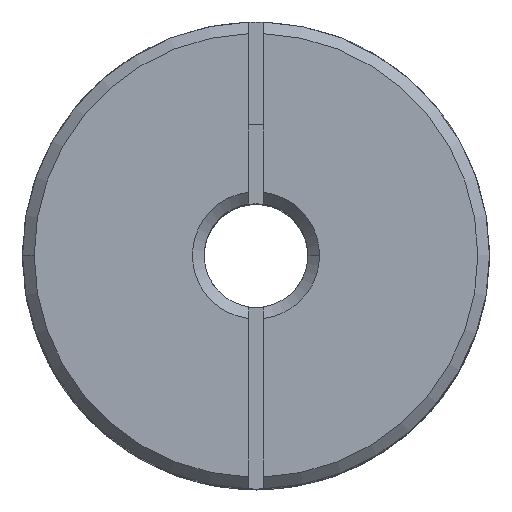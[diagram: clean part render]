
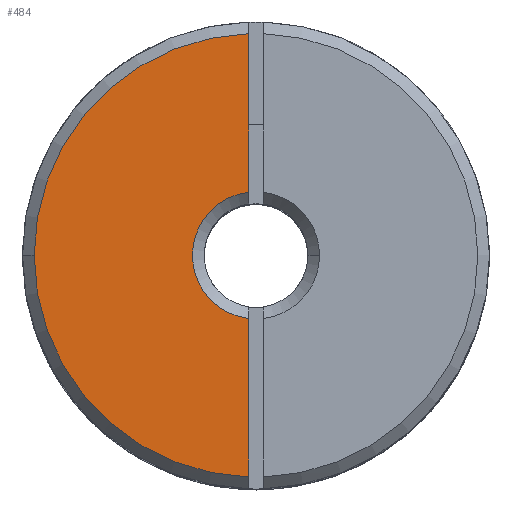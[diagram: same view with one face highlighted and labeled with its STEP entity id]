
A CAD part, top view. The second image highlights one B-rep face of the part: STEP entity #484.
In plain terms, the highlighted planar face has unit normal (0, 0, 1).
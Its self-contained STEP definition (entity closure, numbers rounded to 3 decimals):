
#469 = ORIENTED_EDGE ( 'NONE', *, *, #4118, .T. ) ;
#484 = ADVANCED_FACE ( 'NONE', ( #1631 ), #1629, .T. ) ;
#485 = EDGE_LOOP ( 'NONE', ( #486, #489, #492, #495, #469 ) ) ;
#486 = ORIENTED_EDGE ( 'NONE', *, *, #487, .F. ) ;
#487 = EDGE_CURVE ( 'NONE', #488, #4104, #1624, .T. ) ;
#488 = VERTEX_POINT ( 'NONE', #1685 ) ;
#489 = ORIENTED_EDGE ( 'NONE', *, *, #490, .T. ) ;
#490 = EDGE_CURVE ( 'NONE', #488, #491, #1684, .T. ) ;
#491 = VERTEX_POINT ( 'NONE', #1679 ) ;
#492 = ORIENTED_EDGE ( 'NONE', *, *, #493, .F. ) ;
#493 = EDGE_CURVE ( 'NONE', #494, #491, #1678, .T. ) ;
#494 = VERTEX_POINT ( 'NONE', #1674 ) ;
#495 = ORIENTED_EDGE ( 'NONE', *, *, #496, .T. ) ;
#496 = EDGE_CURVE ( 'NONE', #494, #4097, #1673, .T. ) ;
#1624 = LINE ( 'NONE', #1630, #1687 ) ;
#1625 = DIRECTION ( 'NONE',  ( 1., 0., 0. ) ) ;
#1626 = DIRECTION ( 'NONE',  ( 0., 0., 1. ) ) ;
#1627 = CARTESIAN_POINT ( 'NONE',  ( 0., 0., 90. ) ) ;
#1628 = AXIS2_PLACEMENT_3D ( 'NONE', #1627, #1626, #1625 ) ;
#1629 = PLANE ( 'NONE',  #1628 ) ;
#1630 = CARTESIAN_POINT ( 'NONE',  ( -0.984, 31.485, 90. ) ) ;
#1631 = FACE_OUTER_BOUND ( 'NONE', #485, .T. ) ;
#1669 = DIRECTION ( 'NONE',  ( 1., 0., 0. ) ) ;
#1670 = DIRECTION ( 'NONE',  ( 0., 0., 1. ) ) ;
#1671 = CARTESIAN_POINT ( 'NONE',  ( 0., 0., 90. ) ) ;
#1672 = AXIS2_PLACEMENT_3D ( 'NONE', #1671, #1670, #1669 ) ;
#1673 = CIRCLE ( 'NONE', #1672, 29.925 ) ;
#1674 = CARTESIAN_POINT ( 'NONE',  ( -0.984, 29.909, 90. ) ) ;
#1675 = DIRECTION ( 'NONE',  ( 0., -1., 0. ) ) ;
#1676 = VECTOR ( 'NONE', #1675, 1000. ) ;
#1677 = CARTESIAN_POINT ( 'NONE',  ( -0.984, 31.485, 90. ) ) ;
#1678 = LINE ( 'NONE', #1677, #1676 ) ;
#1679 = CARTESIAN_POINT ( 'NONE',  ( -0.984, 8.518, 90. ) ) ;
#1680 = DIRECTION ( 'NONE',  ( 1., 0., 0. ) ) ;
#1681 = DIRECTION ( 'NONE',  ( 0., 0., -1. ) ) ;
#1682 = CARTESIAN_POINT ( 'NONE',  ( 0., 0., 90. ) ) ;
#1683 = AXIS2_PLACEMENT_3D ( 'NONE', #1682, #1681, #1680 ) ;
#1684 = CIRCLE ( 'NONE', #1683, 8.575 ) ;
#1685 = CARTESIAN_POINT ( 'NONE',  ( -0.984, -8.518, 90. ) ) ;
#1686 = DIRECTION ( 'NONE',  ( 0., -1., 0. ) ) ;
#1687 = VECTOR ( 'NONE', #1686, 1000. ) ;
#3325 = CARTESIAN_POINT ( 'NONE',  ( -0.984, -29.909, 90. ) ) ;
#3338 = CARTESIAN_POINT ( 'NONE',  ( -29.925, 0., 90. ) ) ;
#3371 = DIRECTION ( 'NONE',  ( 1., 0., 0. ) ) ;
#3373 = DIRECTION ( 'NONE',  ( 0., 0., 1. ) ) ;
#3374 = CARTESIAN_POINT ( 'NONE',  ( 0., 0., 90. ) ) ;
#3375 = AXIS2_PLACEMENT_3D ( 'NONE', #3374, #3373, #3371 ) ;
#3376 = CIRCLE ( 'NONE', #3375, 29.925 ) ;
#4097 = VERTEX_POINT ( 'NONE', #3338 ) ;
#4104 = VERTEX_POINT ( 'NONE', #3325 ) ;
#4118 = EDGE_CURVE ( 'NONE', #4097, #4104, #3376, .T. ) ;
